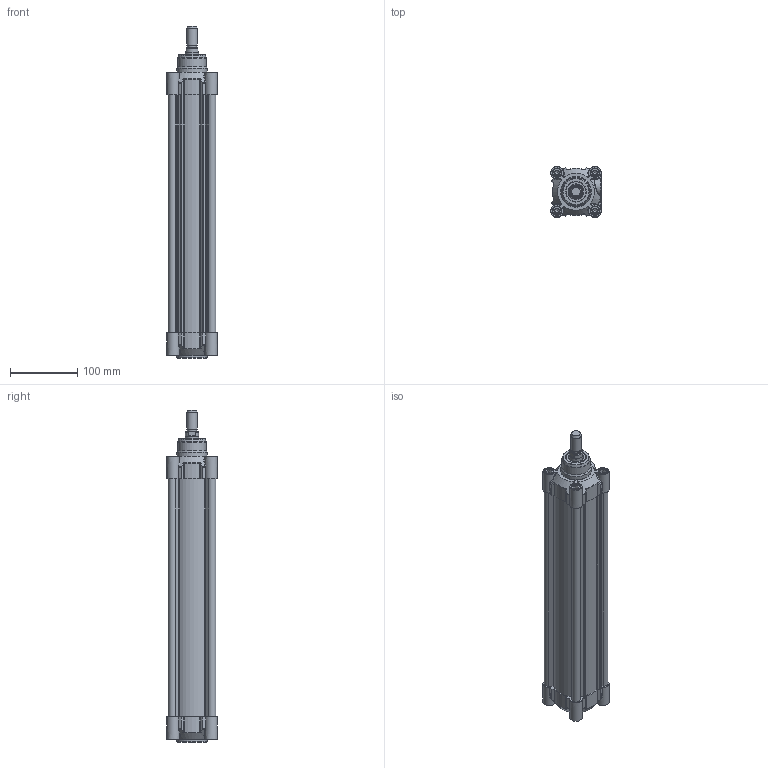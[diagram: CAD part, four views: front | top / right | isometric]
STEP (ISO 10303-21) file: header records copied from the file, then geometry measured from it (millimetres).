
FILE_DESCRIPTION(/* description */ ('CILINDRO D.E. MAGNETICO AMMORTIZZATO ISO 15552'),/* implementation_level */ '2;1');
FILE_NAME(/* name */ 'T:\Archivio Inventor\- 00 NUOVI STP PER SITO CON STELO CHE SI MUOVE\SERIE H - U\SERIE HDM\HDM063 - TUBO NUOVO\HDM063.300.GS.M.stp',/* time_stamp */ '2018-07-30T14:38:51+02:00',/* author */ ('carlo.corazza'),/* organization */ (''),/* preprocessor_version */ 'ST-DEVELOPER v16.5',/* originating_system */ 'Autodesk Inventor 2017',/* authorisation */ '');
FILE_SCHEMA (('AUTOMOTIVE_DESIGN { 1 0 10303 214 3 1 1 }'));
Length unit declared in the file: millimetre
Products named in the file (5): HDM063.300.GS.M; TP; TA; STELO-300; CORPO-300
Assembly tree (4 placements, depth 2):
  HDM063.300.GS.M
    TP
    TA
    STELO-300
    CORPO-300
Bounding box: 75 x 75 x 494 mm (x, y, z)
Volume: 735703.7 mm3; surface area: 362257.4 mm2
Topology: 4 solids, 27 shells, 1241 faces, 2936 edges, 1818 vertices
Faces by surface type: plane 368, cylinder 297, bspline 288, torus 108, cone 106, sphere 74
Full cylindrical faces by diameter (mm): 3 x2, 3.4 x2, 4.8 x2, 5.25 x2, 6.647 x8, 8 x8, 8.3 x12, 9.8 x4, 9.9 x2, 10 x6, 12 x3, 13 x8, 13.3 x8, 13.5 x1, 14.95 x2, 16 x1, 19.5 x1, 20 x1, 20.8 x1, 20.847 x1, 24 x1, 26 x2, 30 x3, 42 x1, 45 x2, 63 x1
Entity records: 40768 total; most frequent: CARTESIAN_POINT 13071, ORIENTED_EDGE 5326, DIRECTION 5100, EDGE_CURVE 2663, AXIS2_PLACEMENT_3D 2037, VERTEX_POINT 1763, EDGE_LOOP 1576, STYLED_ITEM 1245
